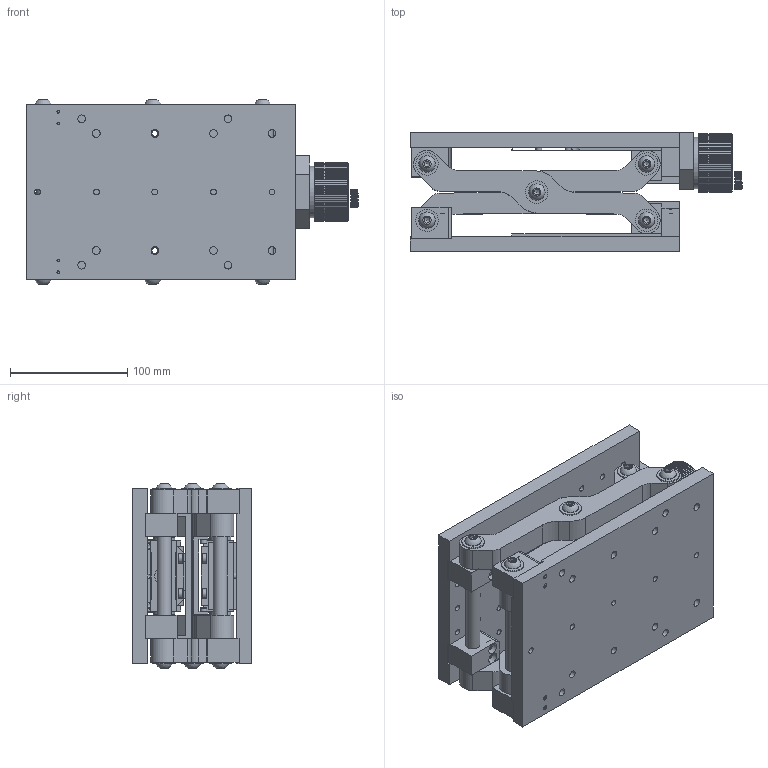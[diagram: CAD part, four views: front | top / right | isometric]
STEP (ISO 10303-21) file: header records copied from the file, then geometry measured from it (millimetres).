
FILE_DESCRIPTION (( 'STEP AP203' ), '1' );
FILE_NAME ('LJB-2.step', '2017-01-10T09:11:44', ( '¦K¬P' ), ( '' ), 'SwSTEP 2.0', 'SolidWorks 2012', '' );
FILE_SCHEMA (( 'CONFIG_CONTROL_DESIGN' ));
Length unit declared in the file: millimetre
Products named in the file (1): LJB-2
Bounding box: 283.4 x 101.6 x 158 mm (x, y, z)
Surface area: 327662.1 mm2 (no closed solid volume)
Topology: 0 solids, 79 shells, 1001 faces, 3145 edges, 2179 vertices
Faces by surface type: plane 643, cylinder 307, cone 40, sphere 10, torus 1
Full cylindrical faces by diameter (mm): 4.2 x4, 4.5 x4, 5 x52, 5.5 x2, 6.5 x12, 7.5 x2, 8 x14, 9.5 x8, 11 x12, 12 x2, 14 x10, 18 x6, 19.1 x10, 44 x1, 45 x1, 46 x1
Entity records: 34757 total; most frequent: CARTESIAN_POINT 7944, DIRECTION 5293, ORIENTED_EDGE 5055, EDGE_CURVE 2911, VERTEX_POINT 2127, AXIS2_PLACEMENT_3D 1908, EDGE_LOOP 1485, LINE 1477
